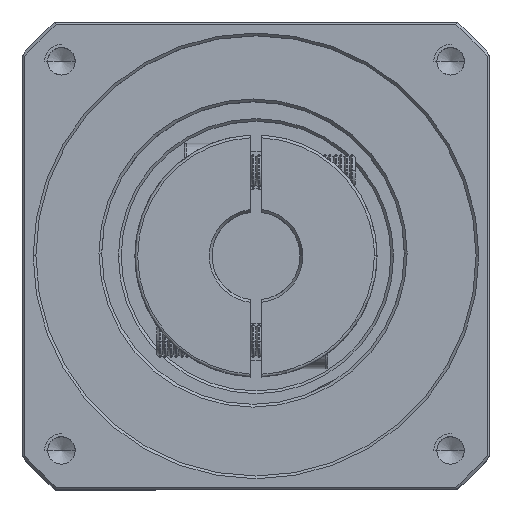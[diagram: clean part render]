
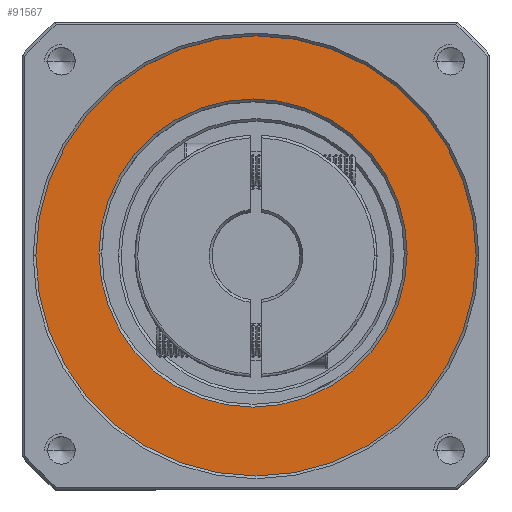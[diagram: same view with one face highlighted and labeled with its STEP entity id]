
A CAD part, top view. The second image highlights one B-rep face of the part: STEP entity #91567.
In plain terms, the highlighted planar face has unit normal (0, 0, 1).
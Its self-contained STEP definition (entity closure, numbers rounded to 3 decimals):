
#480 = ORIENTED_EDGE ( 'NONE', *, *, #29562, .T. ) ;
#4657 = VERTEX_POINT ( 'NONE', #6048 ) ;
#6048 = CARTESIAN_POINT ( 'NONE',  ( -135.926, 18.511, 20.519 ) ) ;
#12328 = ORIENTED_EDGE ( 'NONE', *, *, #93909, .T. ) ;
#13032 = AXIS2_PLACEMENT_3D ( 'NONE', #51319, #115990, #60723 ) ;
#13306 = DIRECTION ( 'NONE',  ( 0., 0., 1. ) ) ;
#13882 = DIRECTION ( 'NONE',  ( 0., 0., -1. ) ) ;
#17429 = VERTEX_POINT ( 'NONE', #86672 ) ;
#18656 = CIRCLE ( 'NONE', #75523, 40. ) ;
#29562 = EDGE_CURVE ( 'NONE', #4657, #17429, #18656, .T. ) ;
#33687 = EDGE_CURVE ( 'NONE', #17429, #4657, #112018, .T. ) ;
#34004 = CARTESIAN_POINT ( 'NONE',  ( -96.468, 19.045, 20.519 ) ) ;
#34109 = VERTEX_POINT ( 'NONE', #49548 ) ;
#43489 = DIRECTION ( 'NONE',  ( 1., 0., 0. ) ) ;
#44265 = CIRCLE ( 'NONE', #76719, 28. ) ;
#45975 = DIRECTION ( 'NONE',  ( 0., 0., 1. ) ) ;
#49548 = CARTESIAN_POINT ( 'NONE',  ( -124.468, 19.045, 20.519 ) ) ;
#50846 = AXIS2_PLACEMENT_3D ( 'NONE', #101426, #45975, #110787 ) ;
#51319 = CARTESIAN_POINT ( 'NONE',  ( -95.926, 18.511, 20.519 ) ) ;
#57764 = AXIS2_PLACEMENT_3D ( 'NONE', #34004, #98991, #43489 ) ;
#59175 = CIRCLE ( 'NONE', #57764, 28. ) ;
#60723 = DIRECTION ( 'NONE',  ( 1., 0., 0. ) ) ;
#63851 = EDGE_LOOP ( 'NONE', ( #95555, #480 ) ) ;
#64396 = PLANE ( 'NONE',  #50846 ) ;
#69627 = CARTESIAN_POINT ( 'NONE',  ( -95.926, 18.511, 20.519 ) ) ;
#70190 = CARTESIAN_POINT ( 'NONE',  ( -96.468, 19.045, 20.519 ) ) ;
#72595 = ORIENTED_EDGE ( 'NONE', *, *, #115135, .T. ) ;
#73817 = CARTESIAN_POINT ( 'NONE',  ( -68.468, 19.045, 20.519 ) ) ;
#75523 = AXIS2_PLACEMENT_3D ( 'NONE', #69627, #13306, #78874 ) ;
#76719 = AXIS2_PLACEMENT_3D ( 'NONE', #70190, #13882, #79453 ) ;
#78874 = DIRECTION ( 'NONE',  ( 1., 0., 0. ) ) ;
#79453 = DIRECTION ( 'NONE',  ( 1., 0., 0. ) ) ;
#86672 = CARTESIAN_POINT ( 'NONE',  ( -55.926, 18.511, 20.519 ) ) ;
#91567 = ADVANCED_FACE ( 'NONE', ( #120856, #96311 ), #64396, .T. ) ;
#93909 = EDGE_CURVE ( 'NONE', #108142, #34109, #44265, .T. ) ;
#95555 = ORIENTED_EDGE ( 'NONE', *, *, #33687, .T. ) ;
#96311 = FACE_BOUND ( 'NONE', #96797, .T. ) ;
#96797 = EDGE_LOOP ( 'NONE', ( #12328, #72595 ) ) ;
#98991 = DIRECTION ( 'NONE',  ( 0., 0., -1. ) ) ;
#101426 = CARTESIAN_POINT ( 'NONE',  ( -95.926, 18.511, 20.519 ) ) ;
#108142 = VERTEX_POINT ( 'NONE', #73817 ) ;
#110787 = DIRECTION ( 'NONE',  ( 1., 0., 0. ) ) ;
#112018 = CIRCLE ( 'NONE', #13032, 40. ) ;
#115135 = EDGE_CURVE ( 'NONE', #34109, #108142, #59175, .T. ) ;
#115990 = DIRECTION ( 'NONE',  ( 0., 0., 1. ) ) ;
#120856 = FACE_OUTER_BOUND ( 'NONE', #63851, .T. ) ;
